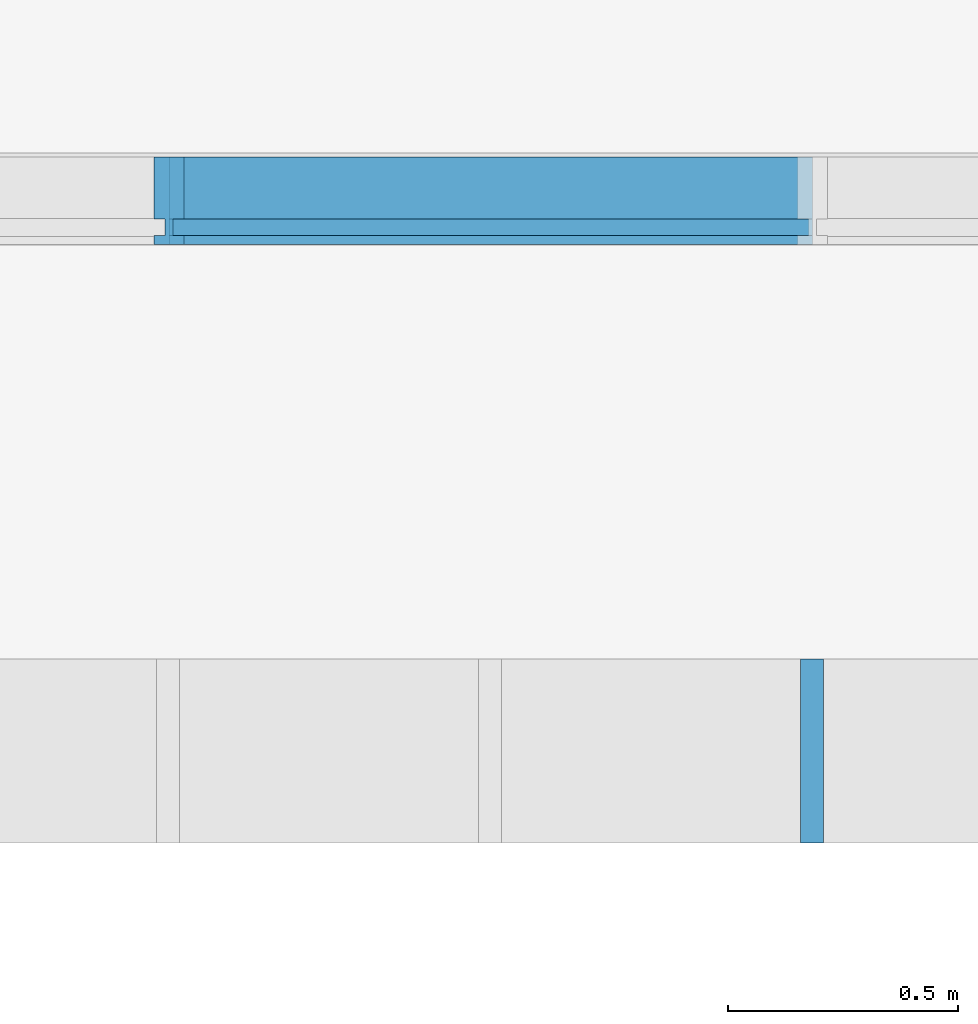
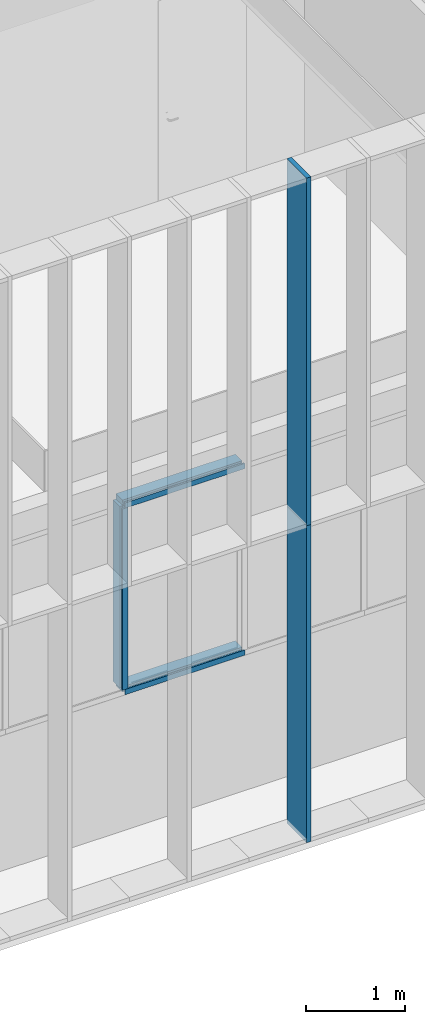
# One storey, part 12 of 106: 5 members, 2 elements without a shape of their own.
"""IFC2X3 building model written with IfcOpenShell, lengths in centimetres."""

from ifc_helpers import new_model, entity, si_unit, converted_unit, derived_unit, direction, frame, origin, origin_2d_with_axis, place, context, subcontext, project, spatial, polyline, rectangle, outline, extrude, source, transform, mapped, material, type_object, type_shapes, element, aggregate, save


model = new_model("IFC2X3")

# Units and contexts
model_context = context("Model", 3, precision=0.001, world=origin(), true_north=direction((6.12303176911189e-17, 1.0)))
body_context = subcontext(model_context, "Body", "Model", "MODEL_VIEW")
ifc_project = project(units=[si_unit("LENGTHUNIT", "METRE", prefix="CENTI"), si_unit("AREAUNIT", "SQUARE_METRE"), si_unit("VOLUMEUNIT", "CUBIC_METRE"), converted_unit("PLANEANGLEUNIT", "DEGREE", entity("IfcRatioMeasure", 0.0174532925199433), si_unit("PLANEANGLEUNIT", "RADIAN"), dimensions=[0, 0, 0, 0, 0, 0, 0]), si_unit("MASSUNIT", "GRAM", prefix="KILO"), derived_unit("MASSDENSITYUNIT", [(si_unit("MASSUNIT", "GRAM", prefix="KILO"), 1), (si_unit("LENGTHUNIT", "METRE"), -3)]), si_unit("TIMEUNIT", "SECOND"), si_unit("FREQUENCYUNIT", "HERTZ"), si_unit("THERMODYNAMICTEMPERATUREUNIT", "DEGREE_CELSIUS"), derived_unit("THERMALTRANSMITTANCEUNIT", [(si_unit("MASSUNIT", "GRAM", prefix="KILO"), 1), (si_unit("THERMODYNAMICTEMPERATUREUNIT", "KELVIN"), -1), (si_unit("TIMEUNIT", "SECOND"), -3)]), derived_unit("VOLUMETRICFLOWRATEUNIT", [(si_unit("LENGTHUNIT", "METRE"), 3), (si_unit("TIMEUNIT", "SECOND"), -1)]), si_unit("ELECTRICCURRENTUNIT", "AMPERE"), si_unit("ELECTRICVOLTAGEUNIT", "VOLT"), si_unit("POWERUNIT", "WATT"), si_unit("FORCEUNIT", "NEWTON", prefix="KILO"), si_unit("ILLUMINANCEUNIT", "LUX"), si_unit("LUMINOUSFLUXUNIT", "LUMEN"), si_unit("LUMINOUSINTENSITYUNIT", "CANDELA"), derived_unit("USERDEFINED", [(si_unit("MASSUNIT", "GRAM", prefix="KILO"), -1), (si_unit("LENGTHUNIT", "METRE"), -2), (si_unit("TIMEUNIT", "SECOND"), 3), (si_unit("LUMINOUSFLUXUNIT", "LUMEN"), 1)]), derived_unit("LINEARVELOCITYUNIT", [(si_unit("LENGTHUNIT", "METRE"), 1), (si_unit("TIMEUNIT", "SECOND"), -1)]), si_unit("PRESSUREUNIT", "PASCAL"), derived_unit("USERDEFINED", [(si_unit("LENGTHUNIT", "METRE"), -2), (si_unit("MASSUNIT", "GRAM", prefix="KILO"), 1), (si_unit("TIMEUNIT", "SECOND"), -2)])], contexts=[model_context])

# Site, building, storey
site_placement = place(None, frame((-2781.94577612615, 7442.24238424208, 0.0)))
site = spatial("IfcSite", under=ifc_project, at=site_placement, Name="Default", CompositionType="ELEMENT")
building_placement = place(site_placement, origin())
building = spatial("IfcBuilding", under=site, at=building_placement, CompositionType="ELEMENT")
storey_placement = place(building_placement, frame((0.0, 0.0, 422.0)))
storey = spatial("IfcBuildingStorey", under=building, at=storey_placement, Name="Toiture - Cuisine", CompositionType="ELEMENT", Elevation=421.999999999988)

# Curtain wall, members
curtain_wall_type_1 = type_object("IfcCurtainWallType", Name="Mur-rideau:07 - mur rideau trame 140 cm", PredefinedType="NOTDEFINED")
curtain_wall_1_placement = place(building_placement, origin())
curtain_wall_1 = element("IfcCurtainWall", 1, at=curtain_wall_1_placement, inside=storey, type_object=curtain_wall_type_1, Name="Mur-rideau:07 - mur rideau trame 140 cm", ObjectType="Mur-rideau:07 - mur rideau trame 140 cm")
ifc_material = material(Name="Aluminium")
member_type_1 = type_object("IfcMemberType", Name="150 x 25mm Détails", PredefinedType="MEMBER")
shared_shape_1 = source(origin(), body_context, "Body", "SweptSolid", [
    extrude(outline(polyline([(-5.6666666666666, -3.24999999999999), (-3.66666666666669, -3.24999999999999), (-3.66666666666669, -0.868749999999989), (-0.166666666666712, -0.868749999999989), (-0.166666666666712, -3.25000000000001), (13.3333333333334, -3.25000000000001), (13.3333333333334, 3.24999999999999), (-0.16666666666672, 3.24999999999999), (-0.16666666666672, 0.868749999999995), (-3.66666666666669, 0.868749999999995), (-3.66666666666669, 3.25), (-5.6666666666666, 3.25), (-5.6666666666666, -3.24999999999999)])), frame((-3.24999999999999, -1.96666666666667, -140.0), z_axis=(0.0, 0.0, 1.0), x_axis=(0.0, -1.0, 0.0)), (0.0, 0.0, 1.0), 140.000000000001),
])
type_shapes(member_type_1, [shared_shape_1])
member_1_placement = place(building_placement, frame((-2650.29988284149, -3046.51349958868, 743.0), z_axis=(1.0, 0.0, 0.0), x_axis=(0.0, 0.0, 1.0)))
member_1 = element("IfcMember", 2, at=member_1_placement, type_object=member_type_1, material=ifc_material, Name="Meneau rectangulaire:150 x 25mm Détails", ObjectType="Meneau rectangulaire:150 x 25mm Détails", context=body_context, shape_type="MappedRepresentation", body=[
    mapped(shared_shape_1, transform((0.0, 0.0, 0.0), scale=1.0)),
])
member_type_2 = type_object("IfcMemberType", Name="150 x 25mm Détails", PredefinedType="MEMBER")
shared_shape_2 = source(origin(), body_context, "Body", "SweptSolid", [
    extrude(outline(polyline([(-5.66666666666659, -3.25), (-3.66666666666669, -3.25), (-3.66666666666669, -0.868749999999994), (-0.166666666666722, -0.868749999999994), (-0.166666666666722, -3.25000000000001), (13.3333333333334, -3.24999999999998), (13.3333333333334, 3.25000000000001), (-0.166666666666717, 3.25000000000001), (-0.166666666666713, 0.868749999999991), (-3.66666666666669, 0.868749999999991), (-3.66666666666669, 3.24999999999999), (-5.66666666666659, 3.24999999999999), (-5.66666666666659, -3.25)])), frame((-3.24999999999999, -1.96666666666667, -140.0), z_axis=(0.0, 0.0, 1.0), x_axis=(0.0, -1.0, 0.0)), (0.0, 0.0, 1.0), 140.000000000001),
])
type_shapes(member_type_2, [shared_shape_2])
member_2_placement = place(building_placement, frame((-2790.29988284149, -3046.51349958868, 505.500000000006), z_axis=(-1.0, 0.0, 0.0), x_axis=(0.0, 0.0, -1.0)))
member_2 = element("IfcMember", 3, at=member_2_placement, type_object=member_type_2, material=ifc_material, Name="Meneau rectangulaire:150 x 25mm Détails", ObjectType="Meneau rectangulaire:150 x 25mm Détails", context=body_context, shape_type="MappedRepresentation", body=[
    mapped(shared_shape_2, transform((0.0, 0.0, 0.0), scale=1.0)),
])
member_type_3 = type_object("IfcMemberType", Name="150 x 25mm Détails", PredefinedType="MEMBER")
shared_shape_3 = source(origin(), body_context, "Body", "SweptSolid", [
    extrude(outline(polyline([(-5.6666666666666, -3.24999999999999), (-3.66666666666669, -3.24999999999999), (-3.66666666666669, -0.86874999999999), (-0.166666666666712, -0.86874999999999), (-0.166666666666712, -3.25000000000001), (13.3333333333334, -3.25000000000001), (13.3333333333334, 3.24999999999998), (-0.16666666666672, 3.24999999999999), (-0.16666666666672, 0.868749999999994), (-3.66666666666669, 0.868749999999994), (-3.66666666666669, 3.25), (-5.6666666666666, 3.25), (-5.6666666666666, -3.24999999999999)])), frame((0.0, -1.96666666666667, -224.5), z_axis=(0.0, 0.0, 1.0), x_axis=(0.0, -1.0, 0.0)), (0.0, 0.0, 1.0), 224.5),
])
type_shapes(member_type_3, [shared_shape_3])
member_3_placement = place(building_placement, frame((-2790.29988284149, -3046.51349958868, 512.0), z_axis=(0.0, 0.0, -1.0), x_axis=(1.0, 0.0, 0.0)))
member_3 = element("IfcMember", 4, at=member_3_placement, type_object=member_type_3, material=ifc_material, Name="Meneau rectangulaire:150 x 25mm Détails", ObjectType="Meneau rectangulaire:150 x 25mm Détails", context=body_context, shape_type="MappedRepresentation", body=[
    mapped(shared_shape_3, transform((0.0, 0.0, 0.0), scale=1.0)),
])
aggregate(curtain_wall_1, [member_1, member_2, member_3])

curtain_wall_type_2 = type_object("IfcCurtainWallType", Name="Mur-rideau:Epines - 400x30mm", PredefinedType="NOTDEFINED")
curtain_wall_2_placement = place(building_placement, origin())
curtain_wall_2 = element("IfcCurtainWall", 5, at=curtain_wall_2_placement, inside=storey, type_object=curtain_wall_type_2, Name="Mur-rideau:Epines - 400x30mm", ObjectType="Mur-rideau:Epines - 400x30mm")
member_type_4 = type_object("IfcMemberType", Name="Epine sud (400x50 mm)", PredefinedType="MEMBER")
shared_shape_4 = source(origin(), body_context, "Body", "SweptSolid", [
    extrude(rectangle(XDim=40.0, YDim=5.0, at=origin_2d_with_axis()), frame((0.0, 0.0, -392.5), z_axis=(0.0, 0.0, 1.0), x_axis=(0.0, -1.0, 0.0)), (0.0, 0.0, 1.0), 392.5),
])
type_shapes(member_type_4, [shared_shape_4])
member_4_placement = place(building_placement, frame((-2650.49987760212, -3160.31349958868, 353.0), z_axis=(0.0, 0.0, -1.0), x_axis=(1.0, 0.0, 0.0)))
member_4 = element("IfcMember", 6, at=member_4_placement, type_object=member_type_4, material=ifc_material, Name="Meneau rectangulaire:Epine sud (400x50 mm)", ObjectType="Meneau rectangulaire:Epine sud (400x50 mm)", context=body_context, shape_type="MappedRepresentation", body=[
    mapped(shared_shape_4, transform((0.0, 0.0, 0.0), scale=1.0)),
])
member_type_5 = type_object("IfcMemberType", Name="Epine sud (400x50 mm)", PredefinedType="MEMBER")
shared_shape_5 = source(origin(), body_context, "Body", "SweptSolid", [
    extrude(rectangle(XDim=40.0, YDim=5.0, at=origin_2d_with_axis()), frame((0.0, 0.0, -430.5), z_axis=(0.0, 0.0, 1.0), x_axis=(0.0, -1.0, 0.0)), (0.0, 0.0, 1.0), 430.5),
])
type_shapes(member_type_5, [shared_shape_5])
member_5_placement = place(building_placement, frame((-2650.49987760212, -3160.31349958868, 745.5), z_axis=(0.0, 0.0, -1.0), x_axis=(1.0, 0.0, 0.0)))
member_5 = element("IfcMember", 7, at=member_5_placement, type_object=member_type_5, material=ifc_material, Name="Meneau rectangulaire:Epine sud (400x50 mm)", ObjectType="Meneau rectangulaire:Epine sud (400x50 mm)", context=body_context, shape_type="MappedRepresentation", body=[
    mapped(shared_shape_5, transform((0.0, 0.0, 0.0), scale=1.0)),
])
aggregate(curtain_wall_2, [member_4, member_5])

save(model, "model.ifc")
